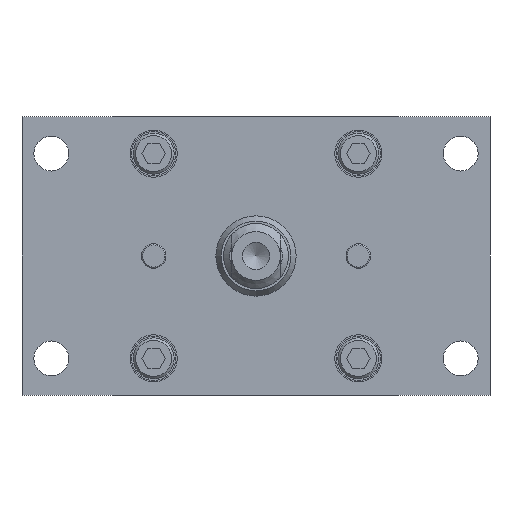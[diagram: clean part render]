
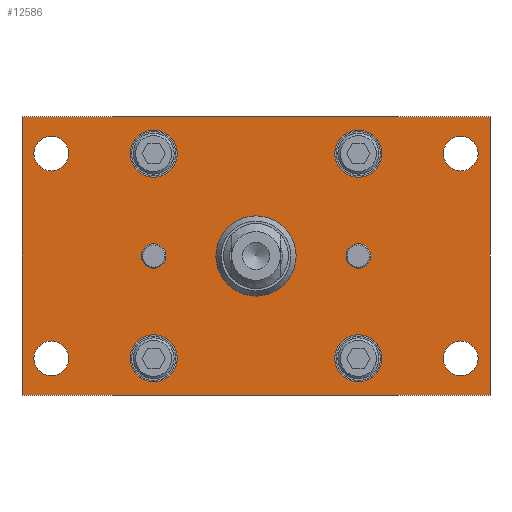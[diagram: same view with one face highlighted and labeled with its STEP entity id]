
A CAD part, front view. The second image highlights one B-rep face of the part: STEP entity #12586.
In plain terms, the highlighted planar face has unit normal (0, -1, 0) as drawn and (0, 0, -1) by its records, which use the part's own axes.
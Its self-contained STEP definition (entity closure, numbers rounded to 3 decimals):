
#271=FACE_BOUND('',#5241,.T.);
#272=FACE_BOUND('',#5242,.T.);
#273=FACE_BOUND('',#5243,.T.);
#274=FACE_BOUND('',#5244,.T.);
#275=FACE_BOUND('',#5245,.T.);
#276=FACE_BOUND('',#5246,.T.);
#277=FACE_BOUND('',#5247,.T.);
#278=FACE_BOUND('',#5248,.T.);
#279=FACE_BOUND('',#5249,.T.);
#280=FACE_BOUND('',#5250,.T.);
#281=FACE_BOUND('',#5251,.T.);
#1120=PLANE('',#14037);
#2226=LINE('',#21134,#3416);
#2229=LINE('',#21139,#3419);
#2231=LINE('',#21143,#3421);
#2233=LINE('',#21146,#3423);
#3416=VECTOR('',#17481,10.);
#3419=VECTOR('',#17486,10.);
#3421=VECTOR('',#17490,10.);
#3423=VECTOR('',#17494,10.);
#4369=FACE_OUTER_BOUND('',#5240,.T.);
#5240=EDGE_LOOP('',(#11191,#11192,#11193,#11194));
#5241=EDGE_LOOP('',(#11195));
#5242=EDGE_LOOP('',(#11196,#11197));
#5243=EDGE_LOOP('',(#11198,#11199));
#5244=EDGE_LOOP('',(#11200,#11201));
#5245=EDGE_LOOP('',(#11202,#11203));
#5246=EDGE_LOOP('',(#11204,#11205));
#5247=EDGE_LOOP('',(#11206,#11207));
#5248=EDGE_LOOP('',(#11208,#11209));
#5249=EDGE_LOOP('',(#11210,#11211));
#5250=EDGE_LOOP('',(#11212,#11213));
#5251=EDGE_LOOP('',(#11214,#11215));
#5549=CIRCLE('',#13927,9.804);
#5586=CIRCLE('',#13978,3.);
#5587=CIRCLE('',#13979,3.);
#5588=CIRCLE('',#13981,3.);
#5589=CIRCLE('',#13982,3.);
#5590=CIRCLE('',#13984,4.25);
#5591=CIRCLE('',#13985,4.25);
#5592=CIRCLE('',#13987,4.25);
#5593=CIRCLE('',#13988,4.25);
#5594=CIRCLE('',#13990,4.25);
#5595=CIRCLE('',#13991,4.25);
#5596=CIRCLE('',#13993,4.25);
#5597=CIRCLE('',#13994,4.25);
#5603=CIRCLE('',#14005,5.75);
#5604=CIRCLE('',#14006,5.75);
#5608=CIRCLE('',#14013,5.75);
#5609=CIRCLE('',#14014,5.75);
#5613=CIRCLE('',#14021,5.75);
#5614=CIRCLE('',#14022,5.75);
#5618=CIRCLE('',#14029,5.75);
#5619=CIRCLE('',#14030,5.75);
#6425=VERTEX_POINT('',#20927);
#6464=VERTEX_POINT('',#21027);
#6465=VERTEX_POINT('',#21028);
#6466=VERTEX_POINT('',#21033);
#6467=VERTEX_POINT('',#21034);
#6468=VERTEX_POINT('',#21039);
#6469=VERTEX_POINT('',#21040);
#6470=VERTEX_POINT('',#21045);
#6471=VERTEX_POINT('',#21046);
#6472=VERTEX_POINT('',#21051);
#6473=VERTEX_POINT('',#21052);
#6474=VERTEX_POINT('',#21057);
#6475=VERTEX_POINT('',#21058);
#6481=VERTEX_POINT('',#21079);
#6482=VERTEX_POINT('',#21080);
#6486=VERTEX_POINT('',#21094);
#6487=VERTEX_POINT('',#21095);
#6491=VERTEX_POINT('',#21109);
#6492=VERTEX_POINT('',#21110);
#6496=VERTEX_POINT('',#21124);
#6497=VERTEX_POINT('',#21125);
#6498=VERTEX_POINT('',#21132);
#6499=VERTEX_POINT('',#21133);
#6500=VERTEX_POINT('',#21138);
#6501=VERTEX_POINT('',#21142);
#8021=EDGE_CURVE('',#6425,#6425,#5549,.T.);
#8068=EDGE_CURVE('',#6464,#6465,#5586,.T.);
#8069=EDGE_CURVE('',#6465,#6464,#5587,.T.);
#8071=EDGE_CURVE('',#6466,#6467,#5588,.T.);
#8072=EDGE_CURVE('',#6467,#6466,#5589,.T.);
#8074=EDGE_CURVE('',#6468,#6469,#5590,.T.);
#8075=EDGE_CURVE('',#6469,#6468,#5591,.T.);
#8077=EDGE_CURVE('',#6470,#6471,#5592,.T.);
#8078=EDGE_CURVE('',#6471,#6470,#5593,.T.);
#8080=EDGE_CURVE('',#6472,#6473,#5594,.T.);
#8081=EDGE_CURVE('',#6473,#6472,#5595,.T.);
#8083=EDGE_CURVE('',#6474,#6475,#5596,.T.);
#8084=EDGE_CURVE('',#6475,#6474,#5597,.T.);
#8093=EDGE_CURVE('',#6481,#6482,#5603,.T.);
#8094=EDGE_CURVE('',#6482,#6481,#5604,.T.);
#8100=EDGE_CURVE('',#6486,#6487,#5608,.T.);
#8101=EDGE_CURVE('',#6487,#6486,#5609,.T.);
#8107=EDGE_CURVE('',#6491,#6492,#5613,.T.);
#8108=EDGE_CURVE('',#6492,#6491,#5614,.T.);
#8114=EDGE_CURVE('',#6496,#6497,#5618,.T.);
#8115=EDGE_CURVE('',#6497,#6496,#5619,.T.);
#8118=EDGE_CURVE('',#6498,#6499,#2226,.T.);
#8121=EDGE_CURVE('',#6500,#6498,#2229,.T.);
#8123=EDGE_CURVE('',#6501,#6500,#2231,.T.);
#8125=EDGE_CURVE('',#6499,#6501,#2233,.T.);
#11191=ORIENTED_EDGE('',*,*,#8125,.F.);
#11192=ORIENTED_EDGE('',*,*,#8118,.F.);
#11193=ORIENTED_EDGE('',*,*,#8121,.F.);
#11194=ORIENTED_EDGE('',*,*,#8123,.F.);
#11195=ORIENTED_EDGE('',*,*,#8021,.T.);
#11196=ORIENTED_EDGE('',*,*,#8068,.T.);
#11197=ORIENTED_EDGE('',*,*,#8069,.T.);
#11198=ORIENTED_EDGE('',*,*,#8071,.T.);
#11199=ORIENTED_EDGE('',*,*,#8072,.T.);
#11200=ORIENTED_EDGE('',*,*,#8074,.T.);
#11201=ORIENTED_EDGE('',*,*,#8075,.T.);
#11202=ORIENTED_EDGE('',*,*,#8077,.T.);
#11203=ORIENTED_EDGE('',*,*,#8078,.T.);
#11204=ORIENTED_EDGE('',*,*,#8080,.T.);
#11205=ORIENTED_EDGE('',*,*,#8081,.T.);
#11206=ORIENTED_EDGE('',*,*,#8083,.T.);
#11207=ORIENTED_EDGE('',*,*,#8084,.T.);
#11208=ORIENTED_EDGE('',*,*,#8093,.T.);
#11209=ORIENTED_EDGE('',*,*,#8094,.T.);
#11210=ORIENTED_EDGE('',*,*,#8100,.T.);
#11211=ORIENTED_EDGE('',*,*,#8101,.T.);
#11212=ORIENTED_EDGE('',*,*,#8107,.T.);
#11213=ORIENTED_EDGE('',*,*,#8108,.T.);
#11214=ORIENTED_EDGE('',*,*,#8114,.T.);
#11215=ORIENTED_EDGE('',*,*,#8115,.T.);
#12586=ADVANCED_FACE('',(#4369,#271,#272,#273,#274,#275,#276,#277,#278,
#279,#280,#281),#1120,.F.);
#13927=AXIS2_PLACEMENT_3D('',#20928,#17243,#17244);
#13978=AXIS2_PLACEMENT_3D('',#21029,#17355,#17356);
#13979=AXIS2_PLACEMENT_3D('',#21030,#17357,#17358);
#13981=AXIS2_PLACEMENT_3D('',#21035,#17362,#17363);
#13982=AXIS2_PLACEMENT_3D('',#21036,#17364,#17365);
#13984=AXIS2_PLACEMENT_3D('',#21041,#17369,#17370);
#13985=AXIS2_PLACEMENT_3D('',#21042,#17371,#17372);
#13987=AXIS2_PLACEMENT_3D('',#21047,#17376,#17377);
#13988=AXIS2_PLACEMENT_3D('',#21048,#17378,#17379);
#13990=AXIS2_PLACEMENT_3D('',#21053,#17383,#17384);
#13991=AXIS2_PLACEMENT_3D('',#21054,#17385,#17386);
#13993=AXIS2_PLACEMENT_3D('',#21059,#17390,#17391);
#13994=AXIS2_PLACEMENT_3D('',#21060,#17392,#17393);
#14005=AXIS2_PLACEMENT_3D('',#21081,#17417,#17418);
#14006=AXIS2_PLACEMENT_3D('',#21082,#17419,#17420);
#14013=AXIS2_PLACEMENT_3D('',#21096,#17435,#17436);
#14014=AXIS2_PLACEMENT_3D('',#21097,#17437,#17438);
#14021=AXIS2_PLACEMENT_3D('',#21111,#17453,#17454);
#14022=AXIS2_PLACEMENT_3D('',#21112,#17455,#17456);
#14029=AXIS2_PLACEMENT_3D('',#21126,#17471,#17472);
#14030=AXIS2_PLACEMENT_3D('',#21127,#17473,#17474);
#14037=AXIS2_PLACEMENT_3D('',#21148,#17497,#17498);
#17243=DIRECTION('center_axis',(0.,0.,1.));
#17244=DIRECTION('ref_axis',(1.,0.,0.));
#17355=DIRECTION('center_axis',(0.,0.,1.));
#17356=DIRECTION('ref_axis',(-1.,0.,0.));
#17357=DIRECTION('center_axis',(0.,0.,1.));
#17358=DIRECTION('ref_axis',(-1.,0.,0.));
#17362=DIRECTION('center_axis',(0.,0.,1.));
#17363=DIRECTION('ref_axis',(-1.,0.,0.));
#17364=DIRECTION('center_axis',(0.,0.,1.));
#17365=DIRECTION('ref_axis',(-1.,0.,0.));
#17369=DIRECTION('center_axis',(0.,0.,1.));
#17370=DIRECTION('ref_axis',(-1.,0.,0.));
#17371=DIRECTION('center_axis',(0.,0.,1.));
#17372=DIRECTION('ref_axis',(-1.,0.,0.));
#17376=DIRECTION('center_axis',(0.,0.,1.));
#17377=DIRECTION('ref_axis',(-1.,0.,0.));
#17378=DIRECTION('center_axis',(0.,0.,1.));
#17379=DIRECTION('ref_axis',(-1.,0.,0.));
#17383=DIRECTION('center_axis',(0.,0.,1.));
#17384=DIRECTION('ref_axis',(-1.,0.,0.));
#17385=DIRECTION('center_axis',(0.,0.,1.));
#17386=DIRECTION('ref_axis',(-1.,0.,0.));
#17390=DIRECTION('center_axis',(0.,0.,1.));
#17391=DIRECTION('ref_axis',(-1.,0.,0.));
#17392=DIRECTION('center_axis',(0.,0.,1.));
#17393=DIRECTION('ref_axis',(-1.,0.,0.));
#17417=DIRECTION('center_axis',(0.,0.,1.));
#17418=DIRECTION('ref_axis',(-1.,0.,0.));
#17419=DIRECTION('center_axis',(0.,0.,1.));
#17420=DIRECTION('ref_axis',(-1.,0.,0.));
#17435=DIRECTION('center_axis',(0.,0.,1.));
#17436=DIRECTION('ref_axis',(-1.,0.,0.));
#17437=DIRECTION('center_axis',(0.,0.,1.));
#17438=DIRECTION('ref_axis',(-1.,0.,0.));
#17453=DIRECTION('center_axis',(0.,0.,1.));
#17454=DIRECTION('ref_axis',(-1.,0.,0.));
#17455=DIRECTION('center_axis',(0.,0.,1.));
#17456=DIRECTION('ref_axis',(-1.,0.,0.));
#17471=DIRECTION('center_axis',(0.,0.,1.));
#17472=DIRECTION('ref_axis',(-1.,0.,0.));
#17473=DIRECTION('center_axis',(0.,0.,1.));
#17474=DIRECTION('ref_axis',(-1.,0.,0.));
#17481=DIRECTION('',(-1.,0.,0.));
#17486=DIRECTION('',(0.,1.,0.));
#17490=DIRECTION('',(1.,0.,0.));
#17494=DIRECTION('',(0.,-1.,0.));
#17497=DIRECTION('center_axis',(0.,0.,1.));
#17498=DIRECTION('ref_axis',(1.,0.,0.));
#20927=CARTESIAN_POINT('',(-9.804,0.,0.));
#20928=CARTESIAN_POINT('Origin',(0.,0.,0.));
#21027=CARTESIAN_POINT('',(-28.,0.,0.));
#21028=CARTESIAN_POINT('',(-22.,0.,0.));
#21029=CARTESIAN_POINT('Origin',(-25.,0.,0.));
#21030=CARTESIAN_POINT('Origin',(-25.,0.,0.));
#21033=CARTESIAN_POINT('',(22.,0.,0.));
#21034=CARTESIAN_POINT('',(28.,0.,0.));
#21035=CARTESIAN_POINT('Origin',(25.,0.,0.));
#21036=CARTESIAN_POINT('Origin',(25.,0.,0.));
#21039=CARTESIAN_POINT('',(45.75,25.,0.));
#21040=CARTESIAN_POINT('',(54.25,25.,0.));
#21041=CARTESIAN_POINT('Origin',(50.,25.,0.));
#21042=CARTESIAN_POINT('Origin',(50.,25.,0.));
#21045=CARTESIAN_POINT('',(-54.25,-25.,0.));
#21046=CARTESIAN_POINT('',(-45.75,-25.,0.));
#21047=CARTESIAN_POINT('Origin',(-50.,-25.,0.));
#21048=CARTESIAN_POINT('Origin',(-50.,-25.,0.));
#21051=CARTESIAN_POINT('',(-54.25,25.,0.));
#21052=CARTESIAN_POINT('',(-45.75,25.,0.));
#21053=CARTESIAN_POINT('Origin',(-50.,25.,0.));
#21054=CARTESIAN_POINT('Origin',(-50.,25.,0.));
#21057=CARTESIAN_POINT('',(45.75,-25.,0.));
#21058=CARTESIAN_POINT('',(54.25,-25.,0.));
#21059=CARTESIAN_POINT('Origin',(50.,-25.,0.));
#21060=CARTESIAN_POINT('Origin',(50.,-25.,0.));
#21079=CARTESIAN_POINT('',(19.25,25.,0.));
#21080=CARTESIAN_POINT('',(30.75,25.,0.));
#21081=CARTESIAN_POINT('Origin',(25.,25.,0.));
#21082=CARTESIAN_POINT('Origin',(25.,25.,0.));
#21094=CARTESIAN_POINT('',(-30.75,-25.,0.));
#21095=CARTESIAN_POINT('',(-19.25,-25.,0.));
#21096=CARTESIAN_POINT('Origin',(-25.,-25.,0.));
#21097=CARTESIAN_POINT('Origin',(-25.,-25.,0.));
#21109=CARTESIAN_POINT('',(19.25,-25.,0.));
#21110=CARTESIAN_POINT('',(30.75,-25.,0.));
#21111=CARTESIAN_POINT('Origin',(25.,-25.,0.));
#21112=CARTESIAN_POINT('Origin',(25.,-25.,0.));
#21124=CARTESIAN_POINT('',(-30.75,25.,0.));
#21125=CARTESIAN_POINT('',(-19.25,25.,0.));
#21126=CARTESIAN_POINT('Origin',(-25.,25.,0.));
#21127=CARTESIAN_POINT('Origin',(-25.,25.,0.));
#21132=CARTESIAN_POINT('',(57.15,34.,0.));
#21133=CARTESIAN_POINT('',(-57.15,34.,0.));
#21134=CARTESIAN_POINT('',(57.15,34.,0.));
#21138=CARTESIAN_POINT('',(57.15,-34.,0.));
#21139=CARTESIAN_POINT('',(57.15,-34.,0.));
#21142=CARTESIAN_POINT('',(-57.15,-34.,0.));
#21143=CARTESIAN_POINT('',(-57.15,-34.,0.));
#21146=CARTESIAN_POINT('',(-57.15,34.,0.));
#21148=CARTESIAN_POINT('Origin',(0.,0.,
0.));
